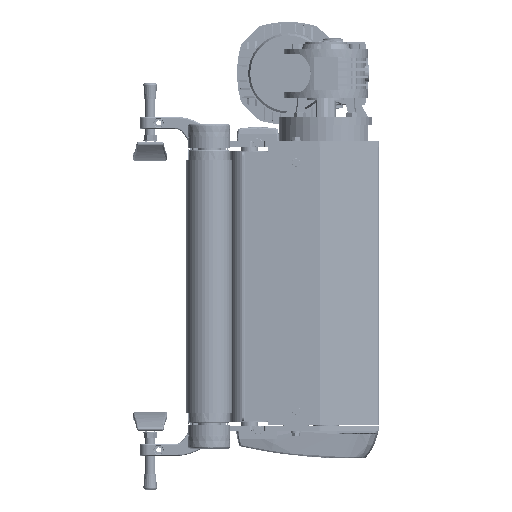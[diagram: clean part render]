
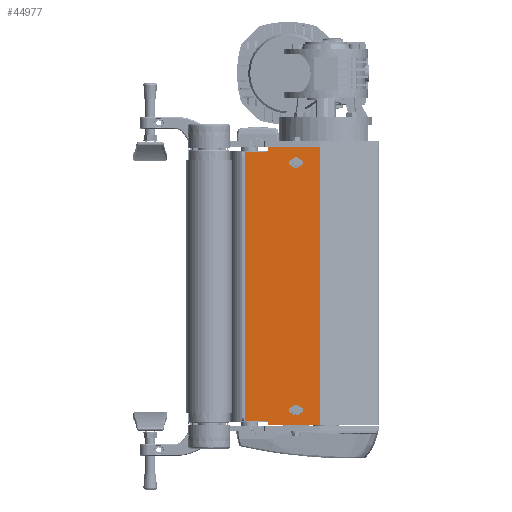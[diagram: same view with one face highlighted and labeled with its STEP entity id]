
A CAD part, left-side view. The second image highlights one B-rep face of the part: STEP entity #44977.
In plain terms, the highlighted planar face has unit normal (-1, 0, 0).
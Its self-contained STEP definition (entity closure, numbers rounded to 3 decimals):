
#2155 = EDGE_CURVE ( 'NONE', #56248, #45133, #186474, .T. ) ;
#2556 = CARTESIAN_POINT ( 'NONE',  ( -90., 70.086, 213.5 ) ) ;
#2968 = FACE_BOUND ( 'NONE', #97939, .T. ) ;
#5866 = LINE ( 'NONE', #117251, #181859 ) ;
#6248 = EDGE_CURVE ( 'NONE', #21073, #162386, #67297, .T. ) ;
#6899 = EDGE_CURVE ( 'NONE', #54718, #79566, #5866, .T. ) ;
#9567 = CARTESIAN_POINT ( 'NONE',  ( -90., 131.5, 213.5 ) ) ;
#13667 = CARTESIAN_POINT ( 'NONE',  ( -90., 158.5, 213.5 ) ) ;
#14281 = EDGE_CURVE ( 'NONE', #126130, #21073, #43965, .T. ) ;
#16063 = DIRECTION ( 'NONE',  ( 1., 0., 0. ) ) ;
#16297 = ORIENTED_EDGE ( 'NONE', *, *, #99015, .F. ) ;
#18080 = VECTOR ( 'NONE', #46412, 1000. ) ;
#20600 = ORIENTED_EDGE ( 'NONE', *, *, #14281, .T. ) ;
#21073 = VERTEX_POINT ( 'NONE', #98870 ) ;
#21688 = CARTESIAN_POINT ( 'NONE',  ( -90., 131.5, 213.5 ) ) ;
#21944 = CARTESIAN_POINT ( 'NONE',  ( -90., 93., -101. ) ) ;
#22637 = VERTEX_POINT ( 'NONE', #27596 ) ;
#26004 = DIRECTION ( 'NONE',  ( 0., 0., -1. ) ) ;
#27596 = CARTESIAN_POINT ( 'NONE',  ( -90., 158.5, -110.5 ) ) ;
#28450 = CARTESIAN_POINT ( 'NONE',  ( -90., 160., -94. ) ) ;
#28705 = VERTEX_POINT ( 'NONE', #28816 ) ;
#28816 = CARTESIAN_POINT ( 'NONE',  ( -90., 93., -94. ) ) ;
#32664 = AXIS2_PLACEMENT_3D ( 'NONE', #190007, #80620, #99956 ) ;
#33143 = CARTESIAN_POINT ( 'NONE',  ( -90., 160., 192. ) ) ;
#33376 = VECTOR ( 'NONE', #153121, 1000. ) ;
#37439 = EDGE_CURVE ( 'NONE', #111806, #22637, #91300, .T. ) ;
#38003 = LINE ( 'NONE', #21688, #138768 ) ;
#40543 = CARTESIAN_POINT ( 'NONE',  ( -90., 158.5, 208.5 ) ) ;
#41227 = DIRECTION ( 'NONE',  ( 0., 0., -1. ) ) ;
#42970 = CARTESIAN_POINT ( 'NONE',  ( -90., 160., -101. ) ) ;
#43965 = LINE ( 'NONE', #42970, #53015 ) ;
#44977 = ADVANCED_FACE ( 'NONE', ( #145025, #2968, #111326 ), #67268, .F. ) ;
#45133 = VERTEX_POINT ( 'NONE', #175632 ) ;
#46165 = LINE ( 'NONE', #171863, #161934 ) ;
#46267 = VECTOR ( 'NONE', #145598, 1000. ) ;
#46412 = DIRECTION ( 'NONE',  ( 0., 1., 0. ) ) ;
#47141 = CARTESIAN_POINT ( 'NONE',  ( -90., 70.086, 213.5 ) ) ;
#48020 = CARTESIAN_POINT ( 'NONE',  ( -90., 131.5, -115.5 ) ) ;
#49117 = ORIENTED_EDGE ( 'NONE', *, *, #2155, .T. ) ;
#51766 = AXIS2_PLACEMENT_3D ( 'NONE', #143085, #82710, #190085 ) ;
#52847 = ORIENTED_EDGE ( 'NONE', *, *, #189723, .T. ) ;
#53015 = VECTOR ( 'NONE', #106335, 1000. ) ;
#54442 = AXIS2_PLACEMENT_3D ( 'NONE', #160493, #124797, #144181 ) ;
#54718 = VERTEX_POINT ( 'NONE', #48020 ) ;
#56022 = VECTOR ( 'NONE', #143548, 1000. ) ;
#56248 = VERTEX_POINT ( 'NONE', #155188 ) ;
#60650 = CARTESIAN_POINT ( 'NONE',  ( -90., 103., 199. ) ) ;
#60936 = VERTEX_POINT ( 'NONE', #2556 ) ;
#67268 = PLANE ( 'NONE',  #32664 ) ;
#67297 = CIRCLE ( 'NONE', #54442, 3.5 ) ;
#68648 = DIRECTION ( 'NONE',  ( 0., 0., -1. ) ) ;
#69675 = EDGE_CURVE ( 'NONE', #85487, #111806, #74320, .T. ) ;
#72472 = VECTOR ( 'NONE', #158947, 1000. ) ;
#72487 = CIRCLE ( 'NONE', #186711, 3.5 ) ;
#73680 = ORIENTED_EDGE ( 'NONE', *, *, #84428, .F. ) ;
#74320 = LINE ( 'NONE', #183678, #104251 ) ;
#76424 = LINE ( 'NONE', #83199, #46267 ) ;
#77436 = LINE ( 'NONE', #28450, #33376 ) ;
#79566 = VERTEX_POINT ( 'NONE', #193686 ) ;
#80620 = DIRECTION ( 'NONE',  ( 1., 0., 0. ) ) ;
#82710 = DIRECTION ( 'NONE',  ( 1., 0., 0. ) ) ;
#83199 = CARTESIAN_POINT ( 'NONE',  ( -90., 160., 199. ) ) ;
#84428 = EDGE_CURVE ( 'NONE', #149773, #60936, #142530, .T. ) ;
#85204 = DIRECTION ( 'NONE',  ( 1., 0., 0. ) ) ;
#85487 = VERTEX_POINT ( 'NONE', #96750 ) ;
#86211 = CARTESIAN_POINT ( 'NONE',  ( -90., 103., 195.5 ) ) ;
#91300 = LINE ( 'NONE', #13667, #128341 ) ;
#93295 = EDGE_CURVE ( 'NONE', #171520, #56248, #113101, .T. ) ;
#96750 = CARTESIAN_POINT ( 'NONE',  ( -90., 131.5, 208.5 ) ) ;
#97931 = ORIENTED_EDGE ( 'NONE', *, *, #116996, .T. ) ;
#97939 = EDGE_LOOP ( 'NONE', ( #160481, #108964, #49117, #124192 ) ) ;
#98123 = ORIENTED_EDGE ( 'NONE', *, *, #69675, .T. ) ;
#98870 = CARTESIAN_POINT ( 'NONE',  ( -90., 103., -101. ) ) ;
#99015 = EDGE_CURVE ( 'NONE', #60936, #79566, #170828, .T. ) ;
#99956 = DIRECTION ( 'NONE',  ( 0., 0., -1. ) ) ;
#101394 = CARTESIAN_POINT ( 'NONE',  ( -90., 131.5, -110.5 ) ) ;
#103279 = AXIS2_PLACEMENT_3D ( 'NONE', #156073, #16063, #112116 ) ;
#103616 = VERTEX_POINT ( 'NONE', #101394 ) ;
#104251 = VECTOR ( 'NONE', #136670, 1000. ) ;
#105270 = EDGE_LOOP ( 'NONE', ( #142613, #98123, #174050, #184112, #97931, #195136, #16297, #73680 ) ) ;
#106335 = DIRECTION ( 'NONE',  ( 0., 1., 0. ) ) ;
#108964 = ORIENTED_EDGE ( 'NONE', *, *, #93295, .T. ) ;
#111326 = FACE_OUTER_BOUND ( 'NONE', #105270, .T. ) ;
#111806 = VERTEX_POINT ( 'NONE', #40543 ) ;
#112116 = DIRECTION ( 'NONE',  ( 0., 0., -1. ) ) ;
#113101 = CIRCLE ( 'NONE', #103279, 3.5 ) ;
#113943 = LINE ( 'NONE', #188588, #72472 ) ;
#115869 = VECTOR ( 'NONE', #188205, 1000. ) ;
#116996 = EDGE_CURVE ( 'NONE', #103616, #54718, #38003, .T. ) ;
#117251 = CARTESIAN_POINT ( 'NONE',  ( -90., 160., -115.5 ) ) ;
#118258 = DIRECTION ( 'NONE',  ( 0., -1., 0. ) ) ;
#121882 = DIRECTION ( 'NONE',  ( 0., 0., -1. ) ) ;
#124192 = ORIENTED_EDGE ( 'NONE', *, *, #130678, .T. ) ;
#124797 = DIRECTION ( 'NONE',  ( 1., 0., 0. ) ) ;
#126130 = VERTEX_POINT ( 'NONE', #21944 ) ;
#127508 = EDGE_LOOP ( 'NONE', ( #190891, #52847, #20600, #198263 ) ) ;
#128341 = VECTOR ( 'NONE', #26004, 1000. ) ;
#130678 = EDGE_CURVE ( 'NONE', #45133, #170621, #72487, .T. ) ;
#132387 = EDGE_CURVE ( 'NONE', #162386, #28705, #77436, .T. ) ;
#132896 = EDGE_CURVE ( 'NONE', #22637, #103616, #113943, .T. ) ;
#136415 = CARTESIAN_POINT ( 'NONE',  ( -90., 93., 199. ) ) ;
#136670 = DIRECTION ( 'NONE',  ( 0., 1., 0. ) ) ;
#138768 = VECTOR ( 'NONE', #68648, 1000. ) ;
#142530 = LINE ( 'NONE', #187477, #56022 ) ;
#142613 = ORIENTED_EDGE ( 'NONE', *, *, #161421, .T. ) ;
#143085 = CARTESIAN_POINT ( 'NONE',  ( -90., 93., -97.5 ) ) ;
#143548 = DIRECTION ( 'NONE',  ( 0., -1., 0. ) ) ;
#144181 = DIRECTION ( 'NONE',  ( 0., 0., -1. ) ) ;
#145025 = FACE_BOUND ( 'NONE', #127508, .T. ) ;
#145598 = DIRECTION ( 'NONE',  ( 0., -1., 0. ) ) ;
#146538 = CIRCLE ( 'NONE', #51766, 3.5 ) ;
#149773 = VERTEX_POINT ( 'NONE', #9567 ) ;
#153121 = DIRECTION ( 'NONE',  ( 0., -1., 0. ) ) ;
#155188 = CARTESIAN_POINT ( 'NONE',  ( -90., 93., 192. ) ) ;
#156073 = CARTESIAN_POINT ( 'NONE',  ( -90., 93., 195.5 ) ) ;
#156457 = EDGE_CURVE ( 'NONE', #170621, #171520, #76424, .T. ) ;
#158947 = DIRECTION ( 'NONE',  ( 0., -1., 0. ) ) ;
#160481 = ORIENTED_EDGE ( 'NONE', *, *, #156457, .T. ) ;
#160493 = CARTESIAN_POINT ( 'NONE',  ( -90., 103., -97.5 ) ) ;
#161421 = EDGE_CURVE ( 'NONE', #149773, #85487, #46165, .T. ) ;
#161934 = VECTOR ( 'NONE', #121882, 1000. ) ;
#162386 = VERTEX_POINT ( 'NONE', #171007 ) ;
#170621 = VERTEX_POINT ( 'NONE', #60650 ) ;
#170828 = LINE ( 'NONE', #47141, #115869 ) ;
#171007 = CARTESIAN_POINT ( 'NONE',  ( -90., 103., -94. ) ) ;
#171520 = VERTEX_POINT ( 'NONE', #136415 ) ;
#171863 = CARTESIAN_POINT ( 'NONE',  ( -90., 131.5, 213.5 ) ) ;
#174050 = ORIENTED_EDGE ( 'NONE', *, *, #37439, .T. ) ;
#175632 = CARTESIAN_POINT ( 'NONE',  ( -90., 103., 192. ) ) ;
#181859 = VECTOR ( 'NONE', #118258, 1000. ) ;
#183678 = CARTESIAN_POINT ( 'NONE',  ( -90., 160., 208.5 ) ) ;
#184112 = ORIENTED_EDGE ( 'NONE', *, *, #132896, .T. ) ;
#186474 = LINE ( 'NONE', #33143, #18080 ) ;
#186711 = AXIS2_PLACEMENT_3D ( 'NONE', #86211, #85204, #41227 ) ;
#187477 = CARTESIAN_POINT ( 'NONE',  ( -90., 160., 213.5 ) ) ;
#188205 = DIRECTION ( 'NONE',  ( 0., 0., -1. ) ) ;
#188588 = CARTESIAN_POINT ( 'NONE',  ( -90., 160., -110.5 ) ) ;
#189723 = EDGE_CURVE ( 'NONE', #28705, #126130, #146538, .T. ) ;
#190007 = CARTESIAN_POINT ( 'NONE',  ( -90., 160., 213.5 ) ) ;
#190085 = DIRECTION ( 'NONE',  ( 0., 0., -1. ) ) ;
#190891 = ORIENTED_EDGE ( 'NONE', *, *, #132387, .T. ) ;
#193686 = CARTESIAN_POINT ( 'NONE',  ( -90., 70.086, -115.5 ) ) ;
#195136 = ORIENTED_EDGE ( 'NONE', *, *, #6899, .T. ) ;
#198263 = ORIENTED_EDGE ( 'NONE', *, *, #6248, .T. ) ;
